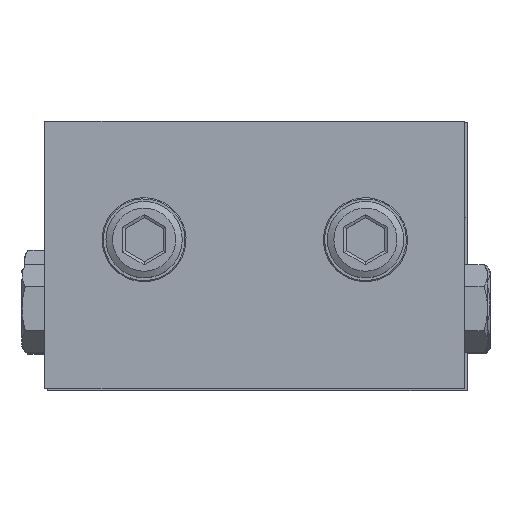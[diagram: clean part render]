
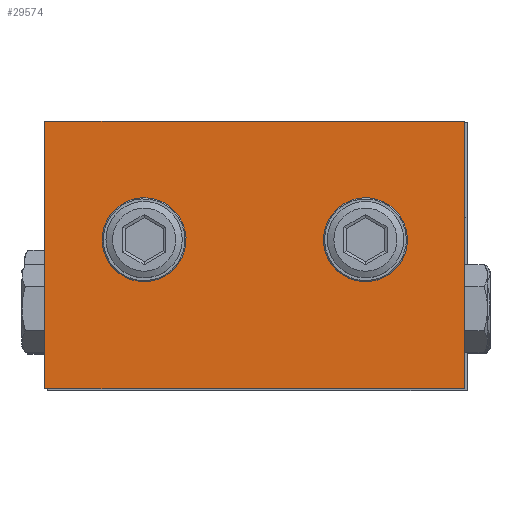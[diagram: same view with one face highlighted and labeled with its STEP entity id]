
A CAD part, top view. The second image highlights one B-rep face of the part: STEP entity #29574.
In plain terms, the highlighted planar face has unit normal (0, 0, 1) as drawn and (0, 0, -1) by its records, which use the part's own axes.
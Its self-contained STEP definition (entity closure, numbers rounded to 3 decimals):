
#40 = EDGE_CURVE ( 'NONE', #17633, #13737, #27879, .T. ) ;
#54 = DIRECTION ( 'NONE',  ( 1., 0., 0. ) ) ;
#299 = CARTESIAN_POINT ( 'NONE',  ( 27.5, 0., -4.85 ) ) ;
#459 = CARTESIAN_POINT ( 'NONE',  ( 27.5, 0., -4.85 ) ) ;
#1072 = LINE ( 'NONE', #7621, #23753 ) ;
#1561 = DIRECTION ( 'NONE',  ( 0., 0., -1. ) ) ;
#2492 = CARTESIAN_POINT ( 'NONE',  ( 0., 0., -4.85 ) ) ;
#3382 = DIRECTION ( 'NONE',  ( 0., 0., -1. ) ) ;
#3702 = CARTESIAN_POINT ( 'NONE',  ( -11.4, -15.5, -4.85 ) ) ;
#3989 = CARTESIAN_POINT ( 'NONE',  ( 14.5, -15.5, -4.85 ) ) ;
#4602 = FACE_BOUND ( 'NONE', #15769, .T. ) ;
#6909 = VERTEX_POINT ( 'NONE', #21424 ) ;
#7261 = EDGE_CURVE ( 'NONE', #7537, #7537, #16057, .T. ) ;
#7537 = VERTEX_POINT ( 'NONE', #21254 ) ;
#7621 = CARTESIAN_POINT ( 'NONE',  ( 0., -35., -4.85 ) ) ;
#7979 = EDGE_CURVE ( 'NONE', #13737, #28063, #22706, .T. ) ;
#8118 = CARTESIAN_POINT ( 'NONE',  ( -27.5, 0., -4.85 ) ) ;
#8251 = DIRECTION ( 'NONE',  ( 1., 0., 0. ) ) ;
#8713 = DIRECTION ( 'NONE',  ( -1., 0., 0. ) ) ;
#8883 = ORIENTED_EDGE ( 'NONE', *, *, #13996, .F. ) ;
#9139 = CARTESIAN_POINT ( 'NONE',  ( 0., 0., -4.85 ) ) ;
#10014 = VECTOR ( 'NONE', #24412, 1000. ) ;
#10030 = EDGE_CURVE ( 'NONE', #28063, #6909, #10520, .T. ) ;
#10520 = LINE ( 'NONE', #14957, #10014 ) ;
#11317 = FACE_BOUND ( 'NONE', #23093, .T. ) ;
#11873 = ORIENTED_EDGE ( 'NONE', *, *, #25595, .F. ) ;
#13145 = VERTEX_POINT ( 'NONE', #3702 ) ;
#13737 = VERTEX_POINT ( 'NONE', #459 ) ;
#13996 = EDGE_CURVE ( 'NONE', #13145, #13145, #23260, .T. ) ;
#14004 = DIRECTION ( 'NONE',  ( 0., 1., 0. ) ) ;
#14957 = CARTESIAN_POINT ( 'NONE',  ( -27.5, 0., -4.85 ) ) ;
#15020 = ORIENTED_EDGE ( 'NONE', *, *, #40, .F. ) ;
#15769 = EDGE_LOOP ( 'NONE', ( #29011 ) ) ;
#16057 = CIRCLE ( 'NONE', #25800, 3.1 ) ;
#16905 = DIRECTION ( 'NONE',  ( 1., 0., 0. ) ) ;
#17633 = VERTEX_POINT ( 'NONE', #25063 ) ;
#18423 = DIRECTION ( 'NONE',  ( -1., 0., 0. ) ) ;
#18472 = DIRECTION ( 'NONE',  ( 0., 0., 1. ) ) ;
#18600 = VECTOR ( 'NONE', #14004, 1000. ) ;
#18796 = AXIS2_PLACEMENT_3D ( 'NONE', #27122, #3382, #8251 ) ;
#20871 = VECTOR ( 'NONE', #18423, 1000. ) ;
#21241 = EDGE_LOOP ( 'NONE', ( #26535, #28934, #15020, #11873 ) ) ;
#21254 = CARTESIAN_POINT ( 'NONE',  ( 11.4, -15.5, -4.85 ) ) ;
#21424 = CARTESIAN_POINT ( 'NONE',  ( -27.5, -35., -4.85 ) ) ;
#22706 = LINE ( 'NONE', #9139, #20871 ) ;
#23093 = EDGE_LOOP ( 'NONE', ( #8883 ) ) ;
#23260 = CIRCLE ( 'NONE', #18796, 3.1 ) ;
#23753 = VECTOR ( 'NONE', #16905, 1000. ) ;
#24412 = DIRECTION ( 'NONE',  ( 0., -1., 0. ) ) ;
#25063 = CARTESIAN_POINT ( 'NONE',  ( 27.5, -35., -4.85 ) ) ;
#25595 = EDGE_CURVE ( 'NONE', #6909, #17633, #1072, .T. ) ;
#25800 = AXIS2_PLACEMENT_3D ( 'NONE', #3989, #1561, #8713 ) ;
#25931 = PLANE ( 'NONE',  #28493 ) ;
#26535 = ORIENTED_EDGE ( 'NONE', *, *, #10030, .F. ) ;
#27122 = CARTESIAN_POINT ( 'NONE',  ( -14.5, -15.5, -4.85 ) ) ;
#27879 = LINE ( 'NONE', #299, #18600 ) ;
#28063 = VERTEX_POINT ( 'NONE', #8118 ) ;
#28069 = FACE_OUTER_BOUND ( 'NONE', #21241, .T. ) ;
#28493 = AXIS2_PLACEMENT_3D ( 'NONE', #2492, #18472, #54 ) ;
#28934 = ORIENTED_EDGE ( 'NONE', *, *, #7979, .F. ) ;
#29011 = ORIENTED_EDGE ( 'NONE', *, *, #7261, .F. ) ;
#29574 = ADVANCED_FACE ( 'NONE', ( #28069, #4602, #11317 ), #25931, .F. ) ;
